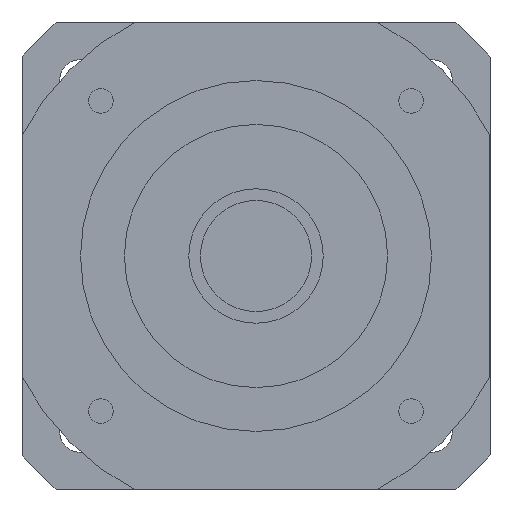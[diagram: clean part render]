
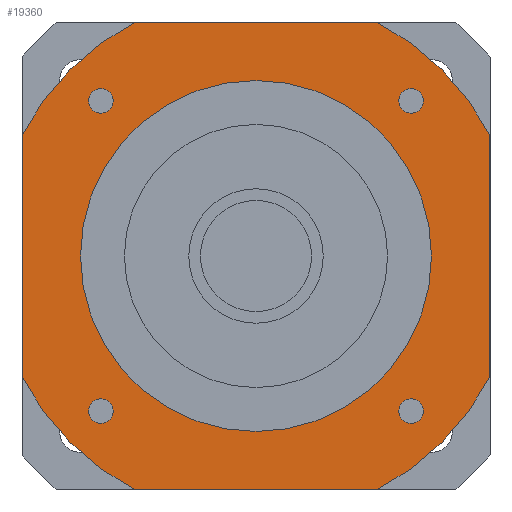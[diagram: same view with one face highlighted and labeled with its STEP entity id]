
A CAD part, left-side view. The second image highlights one B-rep face of the part: STEP entity #19360.
In plain terms, the highlighted planar face has unit normal (-1, 0, 0) as drawn and (0, 0, -1) by its records, which use the part's own axes.
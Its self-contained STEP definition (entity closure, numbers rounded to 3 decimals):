
#13680=CARTESIAN_POINT('',(-20.616,40.,-42.));
#13690=VERTEX_POINT('',#13680);
#13870=CARTESIAN_POINT('',(-40.,20.616,-42.));
#13880=VERTEX_POINT('',#13870);
#13910=CARTESIAN_POINT('',(0.,0.,
-42.));
#13920=DIRECTION('',(0.,0.,1.));
#13930=DIRECTION('',(-1.,0.,0.));
#13940=AXIS2_PLACEMENT_3D('',#13910,#13920,#13930);
#13950=CIRCLE('',#13940,45.);
#13960=EDGE_CURVE('',#13690,#13880,#13950,.T.);
#14100=CARTESIAN_POINT('',(-40.,-20.616,-42.));
#14110=VERTEX_POINT('',#14100);
#14290=CARTESIAN_POINT('',(-20.616,-40.,-42.));
#14300=VERTEX_POINT('',#14290);
#14330=CARTESIAN_POINT('',(0.,0.,
-42.));
#14340=DIRECTION('',(0.,0.,1.));
#14350=DIRECTION('',(-1.,0.,0.));
#14360=AXIS2_PLACEMENT_3D('',#14330,#14340,#14350);
#14370=CIRCLE('',#14360,45.);
#14380=EDGE_CURVE('',#14110,#14300,#14370,.T.);
#17900=CARTESIAN_POINT('',(40.,40.,-42.));
#17910=DIRECTION('',(0.,0.,1.));
#17920=DIRECTION('',(-1.,0.,0.));
#17930=AXIS2_PLACEMENT_3D('',#17900,#17910,#17920);
#17940=PLANE('',#17930);
#17950=CARTESIAN_POINT('',(-26.517,26.517,-42.));
#17960=DIRECTION('',(0.,0.,-1.));
#17970=DIRECTION('',(0.,-1.,0.));
#17980=AXIS2_PLACEMENT_3D('',#17950,#17960,#17970);
#17990=CIRCLE('',#17980,2.1);
#18000=CARTESIAN_POINT('',(-26.517,24.417,-42.));
#18010=VERTEX_POINT('',#18000);
#18020=CARTESIAN_POINT('',(-28.617,26.517,-42.));
#18030=VERTEX_POINT('',#18020);
#18040=EDGE_CURVE('',#18010,#18030,#17990,.T.);
#18050=ORIENTED_EDGE('',*,*,#18040,.F.);
#18060=CARTESIAN_POINT('',(-24.417,26.517,-42.));
#18070=VERTEX_POINT('',#18060);
#18080=EDGE_CURVE('',#18030,#18070,#17990,.T.);
#18090=ORIENTED_EDGE('',*,*,#18080,.F.);
#18100=EDGE_CURVE('',#18070,#18010,#17990,.T.);
#18110=ORIENTED_EDGE('',*,*,#18100,.F.);
#18120=EDGE_LOOP('',(#18110,#18090,#18050));
#18130=FACE_BOUND('',#18120,.T.);
#18140=CARTESIAN_POINT('',(26.517,26.517,-42.));
#18150=DIRECTION('',(0.,0.,-1.));
#18160=DIRECTION('',(0.,-1.,0.));
#18170=AXIS2_PLACEMENT_3D('',#18140,#18150,#18160);
#18180=CIRCLE('',#18170,2.1);
#18190=CARTESIAN_POINT('',(26.517,24.417,-42.));
#18200=VERTEX_POINT('',#18190);
#18210=CARTESIAN_POINT('',(24.417,26.517,-42.));
#18220=VERTEX_POINT('',#18210);
#18230=EDGE_CURVE('',#18200,#18220,#18180,.T.);
#18240=ORIENTED_EDGE('',*,*,#18230,.F.);
#18250=CARTESIAN_POINT('',(28.617,26.517,-42.));
#18260=VERTEX_POINT('',#18250);
#18270=EDGE_CURVE('',#18220,#18260,#18180,.T.);
#18280=ORIENTED_EDGE('',*,*,#18270,.F.);
#18290=EDGE_CURVE('',#18260,#18200,#18180,.T.);
#18300=ORIENTED_EDGE('',*,*,#18290,.F.);
#18310=EDGE_LOOP('',(#18300,#18280,#18240));
#18320=FACE_BOUND('',#18310,.T.);
#18330=CARTESIAN_POINT('',(26.517,-26.517,-42.));
#18340=DIRECTION('',(0.,0.,-1.));
#18350=DIRECTION('',(0.,-1.,0.));
#18360=AXIS2_PLACEMENT_3D('',#18330,#18340,#18350);
#18370=CIRCLE('',#18360,2.1);
#18380=CARTESIAN_POINT('',(26.517,-28.617,-42.));
#18390=VERTEX_POINT('',#18380);
#18400=CARTESIAN_POINT('',(24.417,-26.517,-42.));
#18410=VERTEX_POINT('',#18400);
#18420=EDGE_CURVE('',#18390,#18410,#18370,.T.);
#18430=ORIENTED_EDGE('',*,*,#18420,.F.);
#18440=CARTESIAN_POINT('',(28.617,-26.517,-42.));
#18450=VERTEX_POINT('',#18440);
#18460=EDGE_CURVE('',#18410,#18450,#18370,.T.);
#18470=ORIENTED_EDGE('',*,*,#18460,.F.);
#18480=EDGE_CURVE('',#18450,#18390,#18370,.T.);
#18490=ORIENTED_EDGE('',*,*,#18480,.F.);
#18500=EDGE_LOOP('',(#18490,#18470,#18430));
#18510=FACE_BOUND('',#18500,.T.);
#18520=CARTESIAN_POINT('',(0.,0.,
-42.));
#18530=DIRECTION('',(0.,0.,1.));
#18540=DIRECTION('',(1.,0.,0.));
#18550=AXIS2_PLACEMENT_3D('',#18520,#18530,#18540);
#18560=CIRCLE('',#18550,30.);
#18570=CARTESIAN_POINT('',(30.,0.,-42.));
#18580=VERTEX_POINT('',#18570);
#18590=CARTESIAN_POINT('',(-30.,0.,-42.));
#18600=VERTEX_POINT('',#18590);
#18610=EDGE_CURVE('',#18580,#18600,#18560,.T.);
#18620=ORIENTED_EDGE('',*,*,#18610,.T.);
#18630=EDGE_CURVE('',#18600,#18580,#18560,.T.);
#18640=ORIENTED_EDGE('',*,*,#18630,.T.);
#18650=EDGE_LOOP('',(#18640,#18620));
#18660=FACE_BOUND('',#18650,.T.);
#18670=CARTESIAN_POINT('',(-26.517,-26.517,-42.));
#18680=DIRECTION('',(0.,0.,-1.));
#18690=DIRECTION('',(0.,-1.,0.));
#18700=AXIS2_PLACEMENT_3D('',#18670,#18680,#18690);
#18710=CIRCLE('',#18700,2.1);
#18720=CARTESIAN_POINT('',(-26.517,-28.617,-42.));
#18730=VERTEX_POINT('',#18720);
#18740=CARTESIAN_POINT('',(-28.617,-26.517,-42.));
#18750=VERTEX_POINT('',#18740);
#18760=EDGE_CURVE('',#18730,#18750,#18710,.T.);
#18770=ORIENTED_EDGE('',*,*,#18760,.F.);
#18780=CARTESIAN_POINT('',(-24.417,-26.517,-42.));
#18790=VERTEX_POINT('',#18780);
#18800=EDGE_CURVE('',#18750,#18790,#18710,.T.);
#18810=ORIENTED_EDGE('',*,*,#18800,.F.);
#18820=EDGE_CURVE('',#18790,#18730,#18710,.T.);
#18830=ORIENTED_EDGE('',*,*,#18820,.F.);
#18840=EDGE_LOOP('',(#18830,#18810,#18770));
#18850=FACE_BOUND('',#18840,.T.);
#18860=ORIENTED_EDGE('',*,*,#14380,.F.);
#18870=CARTESIAN_POINT('',(-40.,-40.,-42.));
#18880=DIRECTION('',(1.,0.,0.));
#18890=VECTOR('',#18880,1000.);
#18900=LINE('',#18870,#18890);
#18910=CARTESIAN_POINT('',(20.616,-40.,-42.));
#18920=VERTEX_POINT('',#18910);
#18930=EDGE_CURVE('',#14300,#18920,#18900,.T.);
#18940=ORIENTED_EDGE('',*,*,#18930,.F.);
#18950=CARTESIAN_POINT('',(0.,0.,
-42.));
#18960=DIRECTION('',(0.,0.,1.));
#18970=DIRECTION('',(-1.,0.,0.));
#18980=AXIS2_PLACEMENT_3D('',#18950,#18960,#18970);
#18990=CIRCLE('',#18980,45.);
#19000=CARTESIAN_POINT('',(40.,-20.616,-42.));
#19010=VERTEX_POINT('',#19000);
#19020=EDGE_CURVE('',#18920,#19010,#18990,.T.);
#19030=ORIENTED_EDGE('',*,*,#19020,.F.);
#19040=CARTESIAN_POINT('',(40.,-40.,-42.));
#19050=DIRECTION('',(0.,1.,0.));
#19060=VECTOR('',#19050,1000.);
#19070=LINE('',#19040,#19060);
#19080=CARTESIAN_POINT('',(40.,20.616,-42.));
#19090=VERTEX_POINT('',#19080);
#19100=EDGE_CURVE('',#19010,#19090,#19070,.T.);
#19110=ORIENTED_EDGE('',*,*,#19100,.F.);
#19120=CARTESIAN_POINT('',(0.,0.,
-42.));
#19130=DIRECTION('',(0.,0.,1.));
#19140=DIRECTION('',(-1.,0.,0.));
#19150=AXIS2_PLACEMENT_3D('',#19120,#19130,#19140);
#19160=CIRCLE('',#19150,45.);
#19170=CARTESIAN_POINT('',(20.616,40.,-42.));
#19180=VERTEX_POINT('',#19170);
#19190=EDGE_CURVE('',#19090,#19180,#19160,.T.);
#19200=ORIENTED_EDGE('',*,*,#19190,.F.);
#19210=CARTESIAN_POINT('',(40.,40.,-42.));
#19220=DIRECTION('',(-1.,0.,0.));
#19230=VECTOR('',#19220,1000.);
#19240=LINE('',#19210,#19230);
#19250=EDGE_CURVE('',#19180,#13690,#19240,.T.);
#19260=ORIENTED_EDGE('',*,*,#19250,.F.);
#19270=ORIENTED_EDGE('',*,*,#13960,.F.);
#19280=CARTESIAN_POINT('',(-40.,40.,-42.));
#19290=DIRECTION('',(0.,-1.,0.));
#19300=VECTOR('',#19290,1000.);
#19310=LINE('',#19280,#19300);
#19320=EDGE_CURVE('',#13880,#14110,#19310,.T.);
#19330=ORIENTED_EDGE('',*,*,#19320,.F.);
#19340=EDGE_LOOP('',(#19330,#19270,#19260,#19200,#19110,#19030,#18940,
#18860));
#19350=FACE_OUTER_BOUND('',#19340,.T.);
#19360=ADVANCED_FACE('',(#18130,#18320,#18510,#18660,#18850,#19350),
#17940,.F.);
